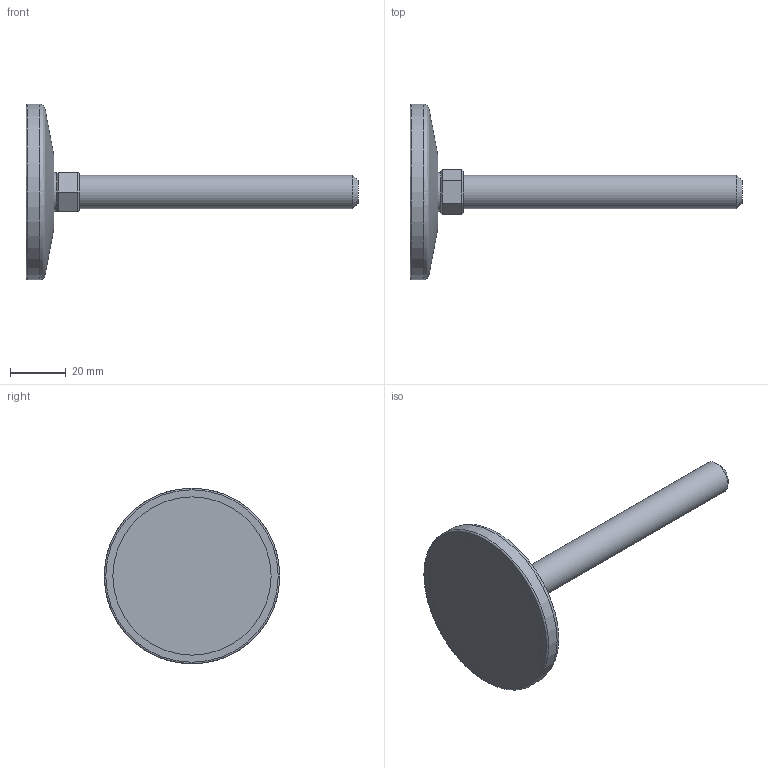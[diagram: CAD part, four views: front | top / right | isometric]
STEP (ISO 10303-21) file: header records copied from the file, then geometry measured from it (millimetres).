
FILE_DESCRIPTION(('STEP AP203'),'2;1');
FILE_NAME('15408.stp','2016-08-29T14:28:07',(''),(''),'2008.1.107','THINKDESIGN','');
FILE_SCHEMA(('CONFIG_CONTROL_DESIGN'));
Length unit declared in the file: millimetre
Bounding box: 119 x 63 x 63 mm (x, y, z)
Volume: 37702.7 mm3; surface area: 18555.7 mm2
Topology: 5 solids, 5 shells, 43 faces, 96 edges, 66 vertices
Faces by surface type: bspline 19, plane 18, cylinder 6
Full cylindrical faces by diameter (mm): 10 x1, 12 x1, 14 x1, 56.7 x2, 63 x1
Entity records: 1735 total; most frequent: CARTESIAN_POINT 604, ORIENTED_EDGE 190, DIRECTION 187, EDGE_CURVE 95, AXIS2_PLACEMENT_3D 67, VERTEX_POINT 64, VECTOR 53, LINE 53
